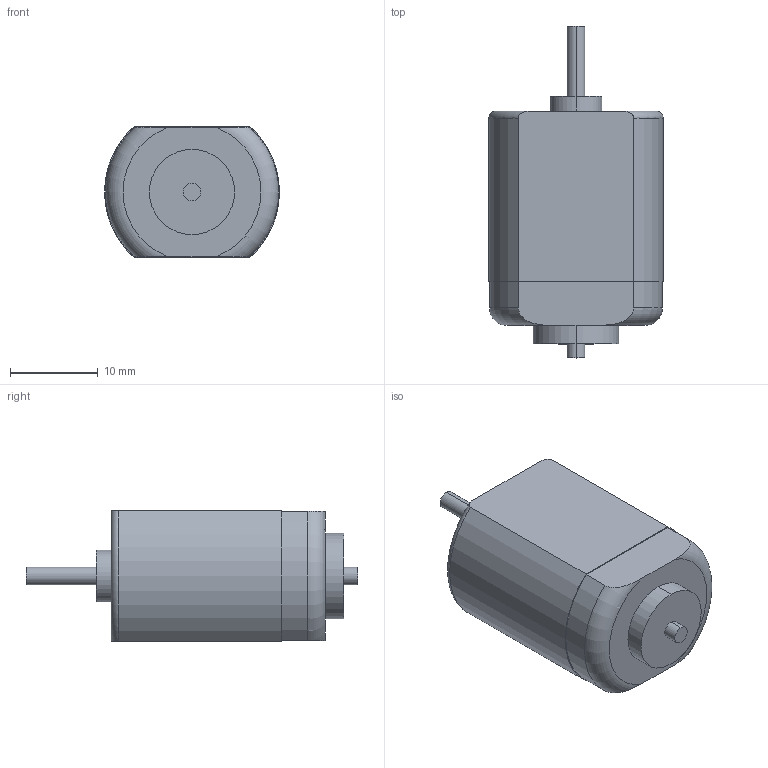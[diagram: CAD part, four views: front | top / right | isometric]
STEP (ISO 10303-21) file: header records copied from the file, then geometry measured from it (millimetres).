
FILE_DESCRIPTION (( 'STEP AP203' ), '1' );
FILE_NAME ('Flywheel Motor (ACP).STEP', '2020-05-02T05:28:40', ( '' ), ( '' ), 'SwSTEP 2.0', 'SolidWorks 2019', '' );
FILE_SCHEMA (( 'CONFIG_CONTROL_DESIGN' ));
Length unit declared in the file: millimetre
Products named in the file (1): Flywheel Motor (ACP)
Bounding box: 19.9 x 37.8 x 14.9 mm (x, y, z)
Volume: 6654.2 mm3; surface area: 2103.7 mm2
Topology: 1 solids, 1 shells, 27 faces, 60 edges, 40 vertices
Faces by surface type: cylinder 12, plane 11, torus 4
Entity records: 919 total; most frequent: CARTESIAN_POINT 224, DIRECTION 136, ORIENTED_EDGE 120, EDGE_CURVE 60, AXIS2_PLACEMENT_3D 56, VERTEX_POINT 40, EDGE_LOOP 32, CIRCLE 28
